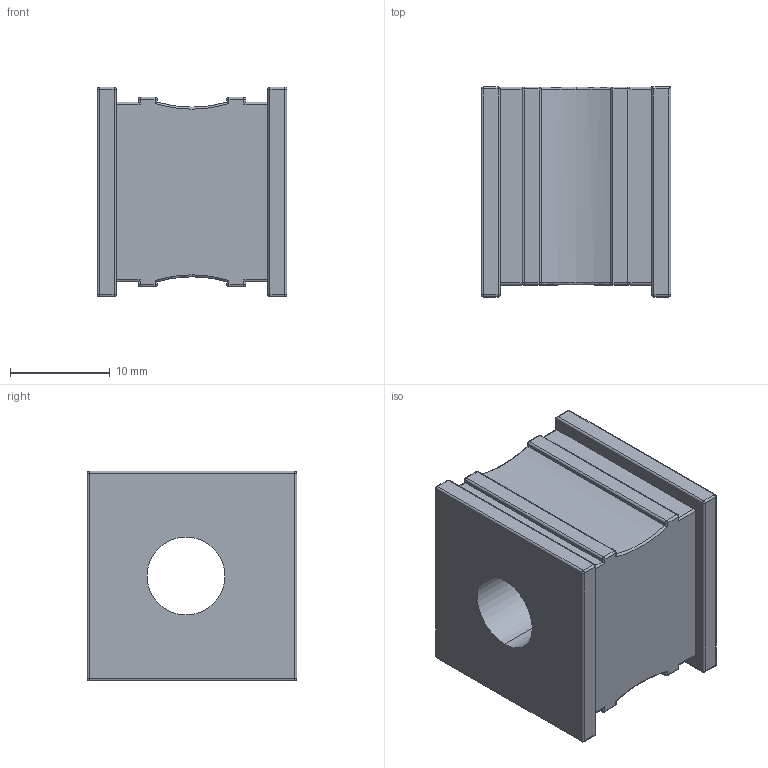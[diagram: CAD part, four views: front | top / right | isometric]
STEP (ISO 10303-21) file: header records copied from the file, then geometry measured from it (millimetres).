
FILE_DESCRIPTION (( 'STEP AP203' ), '1' );
FILE_NAME ('041208 KT8.STEP', '2023-03-07T03:13:52', ( '' ), ( '' ), 'SwSTEP 2.0', 'SolidWorks 2016', '' );
FILE_SCHEMA (( 'CONFIG_CONTROL_DESIGN' ));
Length unit declared in the file: millimetre
Products named in the file (1): 041208 KT8
Bounding box: 19 x 21 x 21 mm (x, y, z)
Volume: 6153.5 mm3; surface area: 2935.8 mm2
Topology: 1 solids, 1 shells, 157 faces, 376 edges, 193 vertices
Faces by surface type: cylinder 71, plane 33, bspline 28, sphere 17, torus 8
Entity records: 5186 total; most frequent: CARTESIAN_POINT 1869, ORIENTED_EDGE 690, DIRECTION 638, EDGE_CURVE 345, AXIS2_PLACEMENT_3D 237, VERTEX_POINT 193, LINE 164, VECTOR 164
